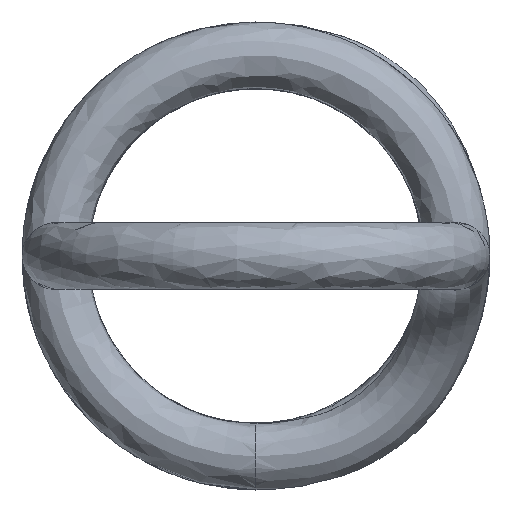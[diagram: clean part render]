
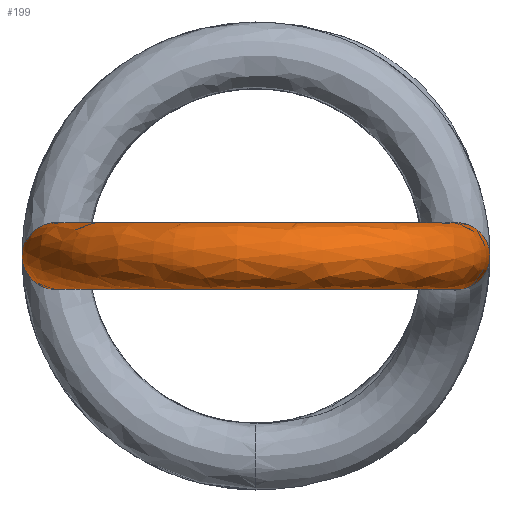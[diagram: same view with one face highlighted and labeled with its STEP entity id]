
A CAD part, front view. The second image highlights one B-rep face of the part: STEP entity #199.
In plain terms, the highlighted free-form (B-spline) face has degree [2, 2] with [9, 7] control points.
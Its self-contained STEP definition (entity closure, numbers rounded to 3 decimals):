
#15=(
BOUNDED_SURFACE()
B_SPLINE_SURFACE(2,2,((#770,#771,#772,#773,#774,#775,#776),(#777,#778,#779,
#780,#781,#782,#783),(#784,#785,#786,#787,#788,#789,#790),(#791,#792,#793,
#794,#795,#796,#797),(#798,#799,#800,#801,#802,#803,#804),(#805,#806,#807,
#808,#809,#810,#811),(#812,#813,#814,#815,#816,#817,#818),(#819,#820,#821,
#822,#823,#824,#825),(#826,#827,#828,#829,#830,#831,#832)),
 .UNSPECIFIED.,.T.,.F.,.F.)
B_SPLINE_SURFACE_WITH_KNOTS((3,2,2,2,3),(3,2,2,3),(0.,1.571,3.142,
4.712,6.283),(0.,1.103,2.206,
3.308),.UNSPECIFIED.)
GEOMETRIC_REPRESENTATION_ITEM()
RATIONAL_B_SPLINE_SURFACE(((1.,0.852,1.,0.852,1.,
0.852,1.),(0.707,0.602,0.707,
0.602,0.707,0.602,0.707),
(1.,0.852,1.,0.852,1.,0.852,1.),(0.707,
0.602,0.707,0.602,0.707,
0.602,0.707),(1.,0.852,1.,0.852,
1.,0.852,1.),(0.707,0.602,0.707,
0.602,0.707,0.602,0.707),
(1.,0.852,1.,0.852,1.,0.852,1.),(0.707,
0.602,0.707,0.602,0.707,
0.602,0.707),(1.,0.852,1.,0.852,
1.,0.852,1.)))
REPRESENTATION_ITEM('')
SURFACE()
);
#22=CIRCLE('',#234,0.5);
#23=CIRCLE('',#235,2.778);
#24=CIRCLE('',#236,0.5);
#37=FACE_OUTER_BOUND('',#48,.T.);
#48=EDGE_LOOP('',(#142,#143,#144,#145));
#85=VERTEX_POINT('',#701);
#88=VERTEX_POINT('',#833);
#106=EDGE_CURVE('',#85,#85,#22,.T.);
#109=EDGE_CURVE('',#85,#88,#23,.T.);
#110=EDGE_CURVE('',#88,#88,#24,.T.);
#142=ORIENTED_EDGE('',*,*,#106,.T.);
#143=ORIENTED_EDGE('',*,*,#109,.T.);
#144=ORIENTED_EDGE('',*,*,#110,.F.);
#145=ORIENTED_EDGE('',*,*,#109,.F.);
#199=ADVANCED_FACE('',(#37),#15,.T.);
#234=AXIS2_PLACEMENT_3D('',#712,#256,#257);
#235=AXIS2_PLACEMENT_3D('',#834,#258,#259);
#236=AXIS2_PLACEMENT_3D('',#835,#260,#261);
#256=DIRECTION('center_axis',(0.,-1.,0.));
#257=DIRECTION('ref_axis',(-0.444,0.,-0.896));
#258=DIRECTION('center_axis',(0.,0.,
-1.));
#259=DIRECTION('ref_axis',(1.,0.,0.));
#260=DIRECTION('center_axis',(0.166,0.986,0.));
#261=DIRECTION('ref_axis',(0.438,-0.074,-0.896));
#701=CARTESIAN_POINT('',(2.778,-11.,-0.448));
#712=CARTESIAN_POINT('Origin',(3.,-11.,0.));
#770=CARTESIAN_POINT('Ctrl Pts',(2.778,-11.,-0.448));
#771=CARTESIAN_POINT('Ctrl Pts',(2.778,-12.708,-0.448));
#772=CARTESIAN_POINT('Ctrl Pts',(1.253,-13.479,-0.448));
#773=CARTESIAN_POINT('Ctrl Pts',(-0.272,-14.25,-0.448));
#774=CARTESIAN_POINT('Ctrl Pts',(-1.647,-13.237,-0.448));
#775=CARTESIAN_POINT('Ctrl Pts',(-3.023,-12.223,-0.448));
#776=CARTESIAN_POINT('Ctrl Pts',(-2.739,-10.539,-0.448));
#777=CARTESIAN_POINT('Ctrl Pts',(3.226,-11.,-0.67));
#778=CARTESIAN_POINT('Ctrl Pts',(3.226,-12.984,-0.67));
#779=CARTESIAN_POINT('Ctrl Pts',(1.455,-13.879,-0.67));
#780=CARTESIAN_POINT('Ctrl Pts',(-0.316,-14.774,-0.67));
#781=CARTESIAN_POINT('Ctrl Pts',(-1.913,-13.597,-0.67));
#782=CARTESIAN_POINT('Ctrl Pts',(-3.51,-12.421,-0.67));
#783=CARTESIAN_POINT('Ctrl Pts',(-3.181,-10.464,-0.67));
#784=CARTESIAN_POINT('Ctrl Pts',(3.448,-11.,-0.222));
#785=CARTESIAN_POINT('Ctrl Pts',(3.448,-13.121,-0.222));
#786=CARTESIAN_POINT('Ctrl Pts',(1.555,-14.077,-0.222));
#787=CARTESIAN_POINT('Ctrl Pts',(-0.337,-15.034,-0.222));
#788=CARTESIAN_POINT('Ctrl Pts',(-2.045,-13.776,-0.222));
#789=CARTESIAN_POINT('Ctrl Pts',(-3.752,-12.519,-0.222));
#790=CARTESIAN_POINT('Ctrl Pts',(-3.4,-10.427,-0.222));
#791=CARTESIAN_POINT('Ctrl Pts',(3.67,-11.,0.226));
#792=CARTESIAN_POINT('Ctrl Pts',(3.67,-13.257,0.226));
#793=CARTESIAN_POINT('Ctrl Pts',(1.656,-14.276,0.226));
#794=CARTESIAN_POINT('Ctrl Pts',(-0.359,-15.294,0.226));
#795=CARTESIAN_POINT('Ctrl Pts',(-2.177,-13.955,0.226));
#796=CARTESIAN_POINT('Ctrl Pts',(-3.994,-12.616,0.226));
#797=CARTESIAN_POINT('Ctrl Pts',(-3.619,-10.39,0.226));
#798=CARTESIAN_POINT('Ctrl Pts',(3.222,-11.,0.448));
#799=CARTESIAN_POINT('Ctrl Pts',(3.222,-12.982,0.448));
#800=CARTESIAN_POINT('Ctrl Pts',(1.453,-13.876,0.448));
#801=CARTESIAN_POINT('Ctrl Pts',(-0.315,-14.77,0.448));
#802=CARTESIAN_POINT('Ctrl Pts',(-1.911,-13.594,0.448));
#803=CARTESIAN_POINT('Ctrl Pts',(-3.507,-12.419,0.448));
#804=CARTESIAN_POINT('Ctrl Pts',(-3.177,-10.465,0.448));
#805=CARTESIAN_POINT('Ctrl Pts',(2.774,-11.,0.67));
#806=CARTESIAN_POINT('Ctrl Pts',(2.774,-12.706,0.67));
#807=CARTESIAN_POINT('Ctrl Pts',(1.251,-13.476,0.67));
#808=CARTESIAN_POINT('Ctrl Pts',(-0.271,-14.246,0.67));
#809=CARTESIAN_POINT('Ctrl Pts',(-1.645,-13.234,0.67));
#810=CARTESIAN_POINT('Ctrl Pts',(-3.019,-12.222,0.67));
#811=CARTESIAN_POINT('Ctrl Pts',(-2.736,-10.539,0.67));
#812=CARTESIAN_POINT('Ctrl Pts',(2.552,-11.,0.222));
#813=CARTESIAN_POINT('Ctrl Pts',(2.552,-12.57,0.222));
#814=CARTESIAN_POINT('Ctrl Pts',(1.151,-13.278,0.222));
#815=CARTESIAN_POINT('Ctrl Pts',(-0.25,-13.986,0.222));
#816=CARTESIAN_POINT('Ctrl Pts',(-1.514,-13.055,0.222));
#817=CARTESIAN_POINT('Ctrl Pts',(-2.777,-12.124,0.222));
#818=CARTESIAN_POINT('Ctrl Pts',(-2.517,-10.576,0.222));
#819=CARTESIAN_POINT('Ctrl Pts',(2.33,-11.,-0.226));
#820=CARTESIAN_POINT('Ctrl Pts',(2.33,-12.433,-0.226));
#821=CARTESIAN_POINT('Ctrl Pts',(1.051,-13.079,-0.226));
#822=CARTESIAN_POINT('Ctrl Pts',(-0.228,-13.726,-0.226));
#823=CARTESIAN_POINT('Ctrl Pts',(-1.382,-12.876,-0.226));
#824=CARTESIAN_POINT('Ctrl Pts',(-2.536,-12.026,-0.226));
#825=CARTESIAN_POINT('Ctrl Pts',(-2.298,-10.613,-0.226));
#826=CARTESIAN_POINT('Ctrl Pts',(2.778,-11.,-0.448));
#827=CARTESIAN_POINT('Ctrl Pts',(2.778,-12.708,-0.448));
#828=CARTESIAN_POINT('Ctrl Pts',(1.253,-13.479,-0.448));
#829=CARTESIAN_POINT('Ctrl Pts',(-0.272,-14.25,-0.448));
#830=CARTESIAN_POINT('Ctrl Pts',(-1.647,-13.237,-0.448));
#831=CARTESIAN_POINT('Ctrl Pts',(-3.023,-12.223,-0.448));
#832=CARTESIAN_POINT('Ctrl Pts',(-2.739,-10.539,-0.448));
#833=CARTESIAN_POINT('',(-2.739,-10.539,-0.448));
#834=CARTESIAN_POINT('Origin',(0.,-11.,-0.448));
#835=CARTESIAN_POINT('Origin',(-2.958,-10.502,0.));
